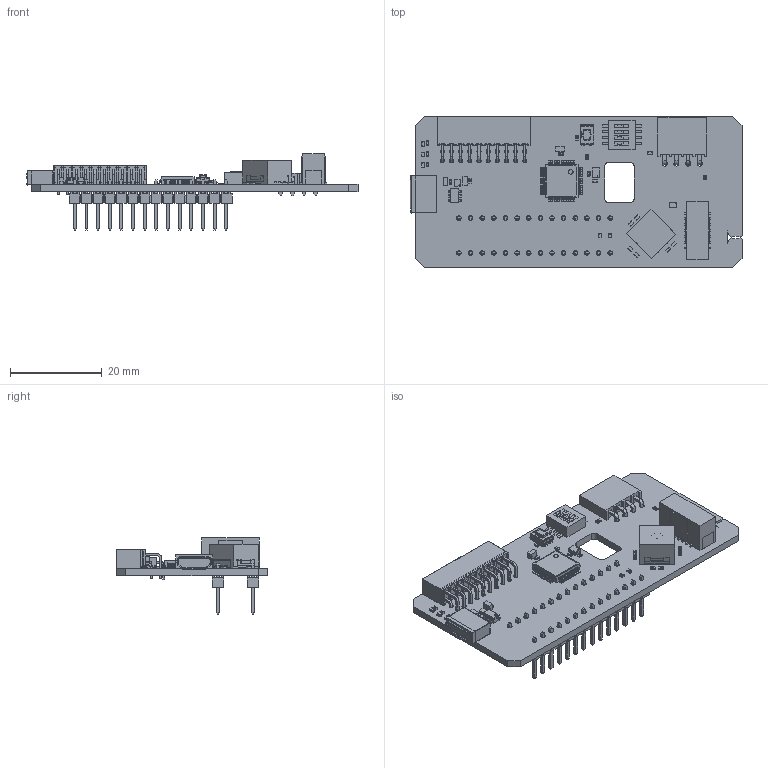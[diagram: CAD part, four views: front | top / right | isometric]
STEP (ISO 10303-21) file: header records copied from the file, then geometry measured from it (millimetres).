
FILE_DESCRIPTION(('Open CASCADE Model'),'2;1');
FILE_NAME('Open CASCADE Shape Model','2021-11-04T20:02:39',('Author'),( 'Open CASCADE'),'Open CASCADE STEP processor 6.8','Open CASCADE 6.8' ,'Unknown');
FILE_SCHEMA(('AUTOMOTIVE_DESIGN { 1 0 10303 214 1 1 1 1 }'));
Length unit declared in the file: millimetre
Products named in the file (151): PCB; Board; Open CASCADE STEP translator 6.8 2.1.1; Open CASCADE STEP translator 6.8 2.1.1.1; U6; 6155988928; Extruded; 6155990608; Cylinder; B1; Switch-CK-KMR2; User_Library-Switch-CK-KMR2_Button; User_Library-Switch-CK-KMR2_Boitier; User_Library-Switch-CK-KMR2_Tole; User_Library-Switch-CK-KMR2_Pads; 6355742816; 6355735616; B2; SWI_XIEJIA_MT-008A_6P; 6155990368; C7; C0603; 6205708448; C9; C0402; 6205710128; C6; C8; C10; 6205288064; C3; 6205706848; C1; C5; CN3; MOLEX_105017-0001; Open CASCADE STEP translator 6.8 2.13.1.1; Open CASCADE STEP translator 6.8 2.13.1.2; 6204586832; 6204586592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
Assembly tree (268 placements, depth 4):
  PCB
    Board
      Open CASCADE STEP translator 6.8 2.1.1
        Open CASCADE STEP translator 6.8 2.1.1.1
    U6
      6155988928
        Extruded
      6155990608
        Cylinder
    B1
      Switch-CK-KMR2
        User_Library-Switch-CK-KMR2_Button
        User_Library-Switch-CK-KMR2_Boitier
        User_Library-Switch-CK-KMR2_Tole
        User_Library-Switch-CK-KMR2_Pads
      6355742816
        Extruded
      6355735616
        Extruded
    B2
      SWI_XIEJIA_MT-008A_6P
      6155990368
        Extruded
    C7
      C0603
      6205708448
        Extruded
    C9
      C0402
      6205710128
        Extruded
    C6
      C0603
      6205708448
        Extruded
    C8
      C0402
      6205710128
        Extruded
    C10
      C0402
      6205288064
        Extruded
    C3
      C0402
      6205706848
        Extruded
    C1
      C0402
      6205710128
        Extruded
    C5
      C0402
      6205710128
        Extruded
    CN3
      MOLEX_105017-0001
        Open CASCADE STEP translator 6.8 2.13.1.1
        Open CASCADE STEP translator 6.8 2.13.1.2
      6204586832
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Bounding box: 72.45 x 33 x 16.59 mm (x, y, z)
Volume: 6883.8 mm3; surface area: 12594.3 mm2
Topology: 217 solids, 223 shells, 10948 faces, 26204 edges, 15072 vertices
Faces by surface type: plane 5105, cylinder 3247, bspline 1696, sphere 715, torus 117, revolution 56, cone 12
Full cylindrical faces by diameter (mm): 0.2 x1, 0.3 x1, 0.8 x1, 0.9 x22, 0.97 x2, 1 x28, 1.1 x5, 1.19 x2
Entity records: 133530 total; most frequent: CARTESIAN_POINT 23354, ORIENTED_EDGE 18552, DIRECTION 17988, EDGE_CURVE 9277, LINE 7848, VECTOR 7848, VERTEX_POINT 5924, AXIS2_PLACEMENT_3D 5066
